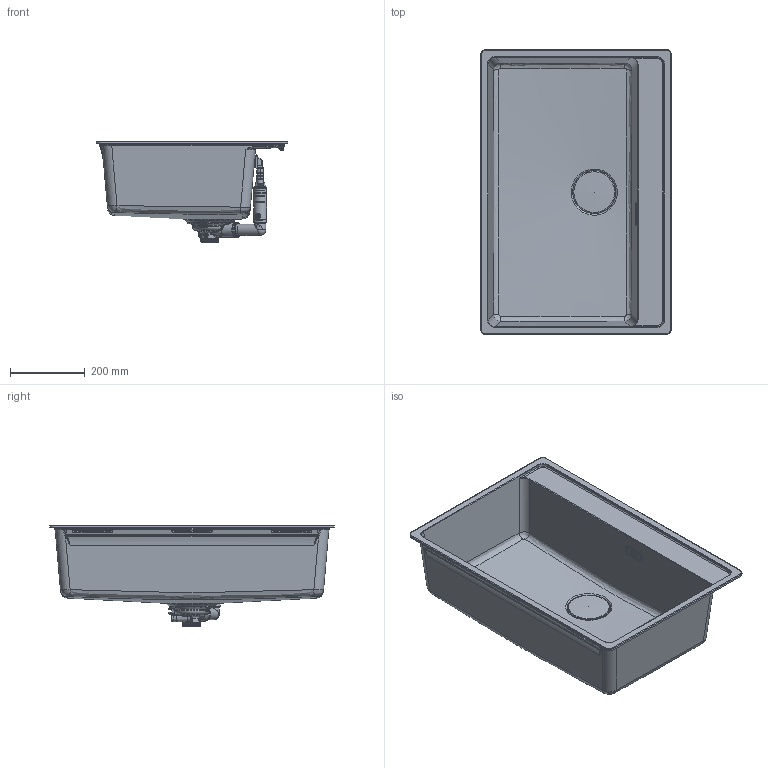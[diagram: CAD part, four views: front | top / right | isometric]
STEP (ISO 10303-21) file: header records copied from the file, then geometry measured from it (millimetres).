
FILE_DESCRIPTION(/* description */ ('UBG 610-78'),/* implementation_level */ '2;1');
FILE_NAME(/* name */ 'C:\Users\PS950\OneDrive - Franke Group\Desktop\MRG 3D Data\MRG 610-72 TL\MRG 610-72 TL.stp',/* time_stamp */ '2021-09-10T14:21:20+02:00',/* author */ ('PS950'),/* organization */ (''),/* preprocessor_version */ 'ST-DEVELOPER v18.1',/* originating_system */ 'Autodesk Inventor 2021',/* authorisation */ '');
FILE_SCHEMA (('AUTOMOTIVE_DESIGN { 1 0 10303 214 3 1 1 }'));
Products named in the file (22): 0056-219212; Standard; NEW MARIS_V01; 0056-218666; 0056-202897; 0056-214469; 0056-203246; 0056-213999; 0056-127368; 0056-215850; 0056-215855; 0056-185732; 0056-214454; 0056-214010; 0056-135514; 0056-137629; 0056-142823; 0056-165491; 0056-161093; 0056-216002; 0056-216000; 0056-207145
Assembly tree (24 placements, depth 4):
  0056-219212
    Standard
      NEW MARIS_V01
    0056-218666
      0056-202897
      0056-214469
      0056-203246
        0056-213999
        0056-127368
        0056-215850
        0056-215855
        0056-185732
        0056-214454
        0056-214010
    0056-135514
    0056-137629
    0056-142823
    0056-165491
    0056-161093
    0056-216002
      0056-216000
      0056-207145  x4
Bounding box: 510 x 760 x 271.19 mm (x, y, z)
Volume: 5764468.2 mm3; surface area: 1722461.1 mm2
Topology: 20 solids, 20 shells, 5167 faces, 13705 edges, 8772 vertices
Faces by surface type: plane 2687, bspline 1156, cylinder 687, torus 351, cone 223, sphere 63
Full cylindrical faces by diameter (mm): 3.242 x1, 4 x1, 4.5 x1, 4.7 x1, 4.85 x1, 5.2 x1, 5.25 x1, 5.85 x2, 6 x4, 6.01 x1, 6.2 x1, 8 x2, 8.25 x1, 11.003 x8, 12 x1, 12.5 x9, 12.6 x1, 13.743 x1, 14.3 x1, 16.941 x1, 22 x1, 26 x1, 27 x1, 28 x2, 30 x7, 33 x2, 33.75 x1, 34 x2, 36.5 x1, 39 x2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
Entity records: 185318 total; most frequent: CARTESIAN_POINT 68096, ORIENTED_EDGE 26208, DIRECTION 20855, EDGE_CURVE 13104, VERTEX_POINT 8460, LINE 7645, VECTOR 7645, AXIS2_PLACEMENT_3D 6605
